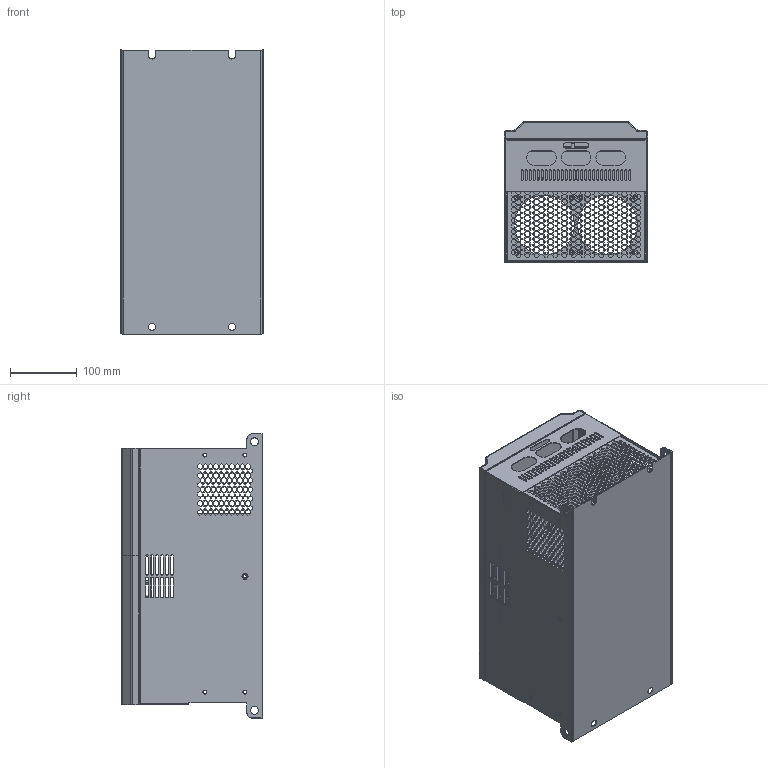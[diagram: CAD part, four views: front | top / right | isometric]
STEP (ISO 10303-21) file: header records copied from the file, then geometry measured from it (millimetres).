
FILE_DESCRIPTION((''),'2;1');
FILE_NAME('2999910067_ASM','2024-07-10T09:34:49',('dylvxj'),(''),'CREO PARAMETRIC BY PTC INC, 2020044','CREO PARAMETRIC BY PTC INC, 2020044','');
FILE_SCHEMA(('CONFIG_CONTROL_DESIGN','SHAPE_APPEARANCE_LAYERS_GROUPS'));
Products named in the file (30): 5ZTD_062_142; SOO-M4-17D5-ZT_ZZ; S_M4_2; SOOS-M3-8-ZI_13_ZZ; 5ZTD_062_142_ASM; 5ZTD_062_129; S-M5-2; 5ZTD_062_129_ASM; 5022V1611_ASM; 8ZTD_355_030; 8ZTD_355_030_ASM; RIGHT-BROND-PL; 5ZTD_043_240_ASM; RIGHT-BROND-PL-CPU; 8ZTD_043_724_ASM; 6JDLM; 5ZTD_355_053_ASM; 8ZTD_048_064; SOOS-M3-8-ZI_13; SOO-M3-13; 5048V1627_ASM; 8ZTD_312_082; 8ZTD_130_080; 5JDLM; 5ZTD_312_012_ASM; 8ZTD_315_1734; 8ZTD_315_1734_ASM; 8ZTD_325_210; 8ZTD_325_210_ASM; 2999910067_ASM
Assembly tree (74 placements, depth 4):
  2999910067_ASM
    5022V1611_ASM
      5ZTD_062_142_ASM
        5ZTD_062_142
        SOO-M4-17D5-ZT_ZZ  x6
        S_M4_2
        SOOS-M3-8-ZI_13_ZZ  x4
      5ZTD_062_129_ASM
        5ZTD_062_129
        S-M5-2  x6
    5ZTD_355_053_ASM
      8ZTD_355_030_ASM
        8ZTD_355_030
        S_M4_2  x4
      5ZTD_043_240_ASM  x2
        RIGHT-BROND-PL
        S_M4_2
      8ZTD_043_724_ASM  x4
        RIGHT-BROND-PL-CPU
        S_M4_2
      6JDLM  x2
    5048V1627_ASM
      8ZTD_048_064
      SOOS-M3-8-ZI_13  x4
      SOO-M3-13  x6
    5ZTD_312_012_ASM
      8ZTD_312_082
      8ZTD_130_080
      5JDLM
    8ZTD_315_1734_ASM
      8ZTD_315_1734
      5JDLM
    8ZTD_325_210_ASM
      8ZTD_325_210
      S-M5-2  x4
      S_M4_2  x8
Bounding box: 214.6 x 210.5 x 426.5 mm (x, y, z)
Volume: 820402.9 mm3; surface area: 1221830.6 mm2
Topology: 67 solids, 96 shells, 8896 faces, 25163 edges, 16650 vertices
Faces by surface type: plane 8097, cylinder 795, bspline 4
Entity records: 198012 total; most frequent: CARTESIAN_POINT 27724, ORIENTED_EDGE 27268, DIRECTION 24430, PRESENTATION_STYLE_ASSIGNMENT 13652, EDGE_CURVE 13648, STYLED_ITEM 13642, CURVE_STYLE 13618, VECTOR 12650
